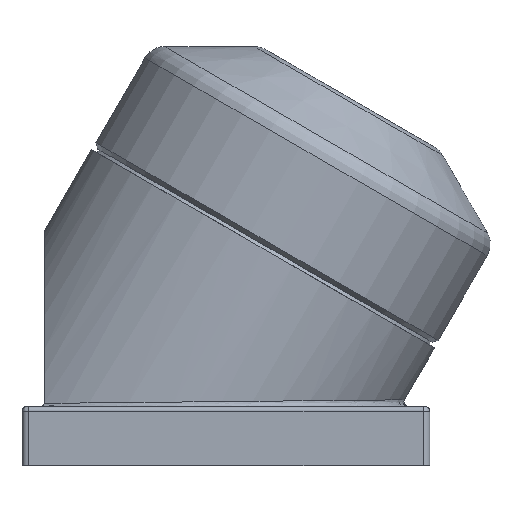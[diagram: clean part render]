
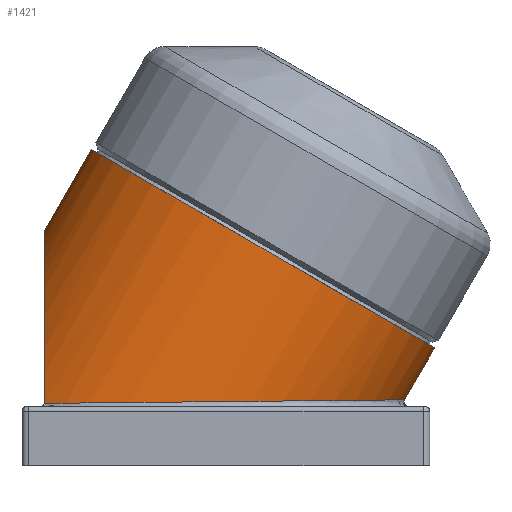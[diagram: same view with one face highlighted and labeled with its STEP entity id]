
A CAD part, left-side view. The second image highlights one B-rep face of the part: STEP entity #1421.
In plain terms, the highlighted cylindrical face has radius 87.5 mm (diameter 175 mm), a full revolution.
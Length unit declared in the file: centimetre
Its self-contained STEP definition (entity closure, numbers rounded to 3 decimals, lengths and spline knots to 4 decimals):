
#61=ELLIPSE('',#1566,10.1619,8.75);
#63=ELLIPSE('',#1571,17.5,8.75);
#74=B_SPLINE_CURVE_WITH_KNOTS('',3,(#2697,#2698,#2699,#2700,#2701,#2702),
 .UNSPECIFIED.,.F.,.F.,(4,2,4),(0.7223,0.7504,0.7784),
 .UNSPECIFIED.);
#75=B_SPLINE_CURVE_WITH_KNOTS('',3,(#2705,#2706,#2707,#2708,#2709,#2710),
 .UNSPECIFIED.,.F.,.F.,(4,2,4),(0.5731,0.6011,0.6292),
 .UNSPECIFIED.);
#76=B_SPLINE_CURVE_WITH_KNOTS('',3,(#2717,#2718,#2719,#2720,#2721,#2722,
#2723,#2724,#2725,#2726,#2727,#2728,#2729,#2730,#2731,#2732,#2733,#2734),
 .UNSPECIFIED.,.F.,.F.,(4,2,2,2,2,2,2,2,4),(0.6363,0.7954,
0.9544,1.1135,1.2726,1.4316,1.5907,
1.7498,1.9088),.UNSPECIFIED.);
#77=B_SPLINE_CURVE_WITH_KNOTS('',3,(#2735,#2736,#2737,#2738,#2739,#2740,
#2741,#2742,#2743,#2744,#2745,#2746,#2747,#2748,#2749,#2750,#2751,#2752,
#2753),.UNSPECIFIED.,.F.,.F.,(4,2,2,2,3,2,2,2,4),(1.9088,2.0679,
2.227,2.3861,2.5451,2.7042,2.8632,
3.0223,3.1814),.UNSPECIFIED.);
#120=CYLINDRICAL_SURFACE('',#1569,8.75);
#180=FACE_BOUND('',#416,.T.);
#181=FACE_BOUND('',#417,.T.);
#278=FACE_OUTER_BOUND('',#415,.T.);
#415=EDGE_LOOP('',(#1022));
#416=EDGE_LOOP('',(#1023,#1024,#1025,#1026));
#417=EDGE_LOOP('',(#1027,#1028));
#592=CIRCLE('',#1570,8.75);
#706=VERTEX_POINT('',#2664);
#707=VERTEX_POINT('',#2665);
#710=VERTEX_POINT('',#2696);
#711=VERTEX_POINT('',#2703);
#712=VERTEX_POINT('',#2712);
#713=VERTEX_POINT('',#2715);
#714=VERTEX_POINT('',#2716);
#835=EDGE_CURVE('',#706,#707,#61,.T.);
#840=EDGE_CURVE('',#707,#710,#74,.T.);
#842=EDGE_CURVE('',#711,#706,#75,.T.);
#843=EDGE_CURVE('',#712,#712,#592,.T.);
#844=EDGE_CURVE('',#711,#710,#63,.T.);
#845=EDGE_CURVE('',#713,#714,#76,.T.);
#846=EDGE_CURVE('',#714,#713,#77,.T.);
#1022=ORIENTED_EDGE('',*,*,#843,.T.);
#1023=ORIENTED_EDGE('',*,*,#835,.F.);
#1024=ORIENTED_EDGE('',*,*,#842,.F.);
#1025=ORIENTED_EDGE('',*,*,#844,.T.);
#1026=ORIENTED_EDGE('',*,*,#840,.F.);
#1027=ORIENTED_EDGE('',*,*,#845,.T.);
#1028=ORIENTED_EDGE('',*,*,#846,.T.);
#1421=ADVANCED_FACE('',(#278,#180,#181),#120,.T.);
#1566=AXIS2_PLACEMENT_3D('',#2666,#1844,#1845);
#1569=AXIS2_PLACEMENT_3D('',#2711,#1852,#1853);
#1570=AXIS2_PLACEMENT_3D('',#2713,#1854,#1855);
#1571=AXIS2_PLACEMENT_3D('',#2714,#1856,#1857);
#1844=DIRECTION('center_axis',(0.,-0.01,
-1.));
#1845=DIRECTION('ref_axis',(0.,-1.,0.01));
#1852=DIRECTION('center_axis',(0.,0.5,-0.866));
#1853=DIRECTION('ref_axis',(-1.,0.,0.));
#1854=DIRECTION('center_axis',(0.,0.5,-0.866));
#1855=DIRECTION('ref_axis',(1.,0.,0.));
#1856=DIRECTION('center_axis',(0.,-1.,0.));
#1857=DIRECTION('ref_axis',(0.,0.,
1.));
#2664=CARTESIAN_POINT('',(7.2216,10.3761,2.7435));
#2665=CARTESIAN_POINT('',(-7.2216,10.3761,2.7435));
#2666=CARTESIAN_POINT('Origin',(0.,4.6384,2.8));
#2696=CARTESIAN_POINT('',(-7.207,10.368,2.8));
#2697=CARTESIAN_POINT('Ctrl Pts',(-7.2216,10.3761,2.7435));
#2698=CARTESIAN_POINT('Ctrl Pts',(-7.22,10.3734,2.7528));
#2699=CARTESIAN_POINT('Ctrl Pts',(-7.218,10.3714,2.7623));
#2700=CARTESIAN_POINT('Ctrl Pts',(-7.2131,10.3687,2.7812));
#2701=CARTESIAN_POINT('Ctrl Pts',(-7.2103,10.368,2.7907));
#2702=CARTESIAN_POINT('Ctrl Pts',(-7.207,10.368,2.8));
#2703=CARTESIAN_POINT('',(7.207,10.368,2.8));
#2705=CARTESIAN_POINT('Ctrl Pts',(7.207,10.368,2.8));
#2706=CARTESIAN_POINT('Ctrl Pts',(7.2103,10.368,2.7907));
#2707=CARTESIAN_POINT('Ctrl Pts',(7.2131,10.3687,2.7812));
#2708=CARTESIAN_POINT('Ctrl Pts',(7.218,10.3714,2.7623));
#2709=CARTESIAN_POINT('Ctrl Pts',(7.22,10.3734,2.7528));
#2710=CARTESIAN_POINT('Ctrl Pts',(7.2216,10.3761,2.7435));
#2711=CARTESIAN_POINT('Origin',(0.,3.4925,4.7848));
#2712=CARTESIAN_POINT('',(-8.75,0.73,9.5696));
#2713=CARTESIAN_POINT('Origin',(0.,0.73,
9.5696));
#2714=CARTESIAN_POINT('Origin',(0.,10.368,-7.1239));
#2715=CARTESIAN_POINT('',(8.75,2.2112,7.0041));
#2716=CARTESIAN_POINT('',(8.75,1.7888,7.7357));
#2717=CARTESIAN_POINT('Ctrl Pts',(8.75,2.2112,7.0041));
#2718=CARTESIAN_POINT('Ctrl Pts',(8.75,2.1653,6.9776));
#2719=CARTESIAN_POINT('Ctrl Pts',(8.7495,2.111,6.9585));
#2720=CARTESIAN_POINT('Ctrl Pts',(8.7475,1.9993,6.9439));
#2721=CARTESIAN_POINT('Ctrl Pts',(8.7462,1.942,6.9483));
#2722=CARTESIAN_POINT('Ctrl Pts',(8.7436,1.8396,6.9758));
#2723=CARTESIAN_POINT('Ctrl Pts',(8.7423,1.7877,7.0007));
#2724=CARTESIAN_POINT('Ctrl Pts',(8.7403,1.6984,7.0693));
#2725=CARTESIAN_POINT('Ctrl Pts',(8.7398,1.661,7.113));
#2726=CARTESIAN_POINT('Ctrl Pts',(8.7398,1.608,7.2048));
#2727=CARTESIAN_POINT('Ctrl Pts',(8.7403,1.5889,7.2591));
#2728=CARTESIAN_POINT('Ctrl Pts',(8.7423,1.5741,7.3707));
#2729=CARTESIAN_POINT('Ctrl Pts',(8.7436,1.5785,7.428));
#2730=CARTESIAN_POINT('Ctrl Pts',(8.7462,1.6059,7.5305));
#2731=CARTESIAN_POINT('Ctrl Pts',(8.7475,1.6307,7.5823));
#2732=CARTESIAN_POINT('Ctrl Pts',(8.7495,1.6992,7.6717));
#2733=CARTESIAN_POINT('Ctrl Pts',(8.75,1.7429,7.7092));
#2734=CARTESIAN_POINT('Ctrl Pts',(8.75,1.7888,7.7357));
#2735=CARTESIAN_POINT('Ctrl Pts',(8.75,1.7888,7.7357));
#2736=CARTESIAN_POINT('Ctrl Pts',(8.75,1.8347,7.7622));
#2737=CARTESIAN_POINT('Ctrl Pts',(8.7495,1.889,7.7813));
#2738=CARTESIAN_POINT('Ctrl Pts',(8.7475,2.0007,7.7959));
#2739=CARTESIAN_POINT('Ctrl Pts',(8.7462,2.058,7.7915));
#2740=CARTESIAN_POINT('Ctrl Pts',(8.7436,2.1604,7.764));
#2741=CARTESIAN_POINT('Ctrl Pts',(8.7423,2.2123,7.7391));
#2742=CARTESIAN_POINT('Ctrl Pts',(8.7403,2.3016,7.6705));
#2743=CARTESIAN_POINT('Ctrl Pts',(8.7398,2.339,7.6268));
#2744=CARTESIAN_POINT('Ctrl Pts',(8.7398,2.3655,7.5809));
#2745=CARTESIAN_POINT('Ctrl Pts',(8.7398,2.392,7.535));
#2746=CARTESIAN_POINT('Ctrl Pts',(8.7403,2.4111,7.4807));
#2747=CARTESIAN_POINT('Ctrl Pts',(8.7423,2.4259,7.3691));
#2748=CARTESIAN_POINT('Ctrl Pts',(8.7436,2.4215,7.3118));
#2749=CARTESIAN_POINT('Ctrl Pts',(8.7462,2.3941,7.2093));
#2750=CARTESIAN_POINT('Ctrl Pts',(8.7475,2.3693,7.1575));
#2751=CARTESIAN_POINT('Ctrl Pts',(8.7495,2.3008,7.0681));
#2752=CARTESIAN_POINT('Ctrl Pts',(8.75,2.2571,7.0306));
#2753=CARTESIAN_POINT('Ctrl Pts',(8.75,2.2112,7.0041));
